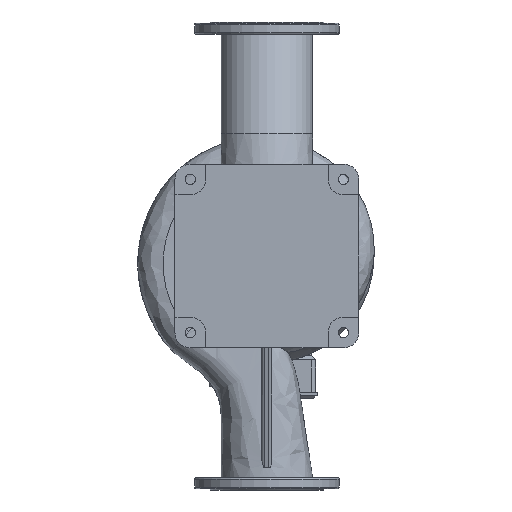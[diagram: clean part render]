
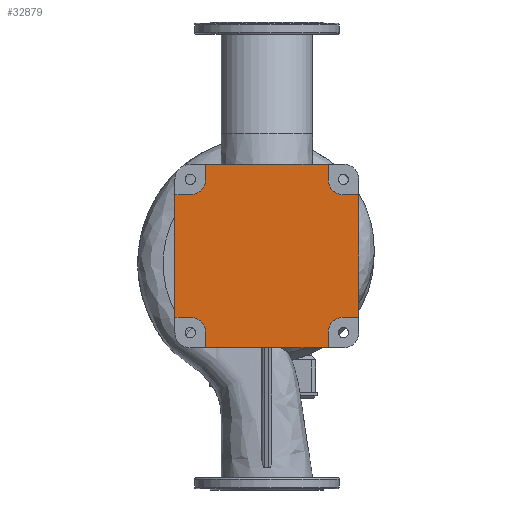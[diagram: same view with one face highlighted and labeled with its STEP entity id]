
A CAD part, front view. The second image highlights one B-rep face of the part: STEP entity #32879.
In plain terms, the highlighted planar face has unit normal (0, -1, 0).
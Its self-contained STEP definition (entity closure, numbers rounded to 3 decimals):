
#667 = ORIENTED_EDGE ( 'NONE', *, *, #24002, .T. ) ;
#1253 = PLANE ( 'NONE',  #15808 ) ;
#1757 = CARTESIAN_POINT ( 'NONE',  ( -216., -265., -144. ) ) ;
#2073 = EDGE_CURVE ( 'NONE', #21084, #23588, #5390, .T. ) ;
#2431 = AXIS2_PLACEMENT_3D ( 'NONE', #4075, #28111, #9421 ) ;
#2439 = EDGE_CURVE ( 'NONE', #23491, #11757, #12983, .T. ) ;
#3033 = AXIS2_PLACEMENT_3D ( 'NONE', #30472, #11250, #24785 ) ;
#3052 = ORIENTED_EDGE ( 'NONE', *, *, #30432, .T. ) ;
#3273 = VECTOR ( 'NONE', #24300, 1000. ) ;
#3354 = DIRECTION ( 'NONE',  ( 0., 0., 1. ) ) ;
#3415 = CARTESIAN_POINT ( 'NONE',  ( -144., -265., 180. ) ) ;
#3715 = ORIENTED_EDGE ( 'NONE', *, *, #17053, .T. ) ;
#4075 = CARTESIAN_POINT ( 'NONE',  ( 180., -265., 180. ) ) ;
#4239 = EDGE_CURVE ( 'NONE', #32823, #23638, #28445, .T. ) ;
#4413 = EDGE_CURVE ( 'NONE', #30263, #14908, #14287, .T. ) ;
#4471 = VECTOR ( 'NONE', #17040, 1000. ) ;
#4597 = CARTESIAN_POINT ( 'NONE',  ( -180., -265., -144. ) ) ;
#4748 = AXIS2_PLACEMENT_3D ( 'NONE', #11362, #30216, #3354 ) ;
#4814 = LINE ( 'NONE', #18327, #28095 ) ;
#5390 = LINE ( 'NONE', #22095, #16952 ) ;
#6461 = VECTOR ( 'NONE', #19549, 1000. ) ;
#6730 = EDGE_CURVE ( 'NONE', #23588, #23491, #20699, .T. ) ;
#6839 = CARTESIAN_POINT ( 'NONE',  ( 216., -265., 144. ) ) ;
#6894 = CARTESIAN_POINT ( 'NONE',  ( 144., -265., -216. ) ) ;
#7008 = DIRECTION ( 'NONE',  ( 0., 0., 1. ) ) ;
#8117 = VECTOR ( 'NONE', #19408, 1000. ) ;
#8146 = CIRCLE ( 'NONE', #4748, 36. ) ;
#8904 = CARTESIAN_POINT ( 'NONE',  ( -144., -265., -180. ) ) ;
#9421 = DIRECTION ( 'NONE',  ( 0., 0., 1. ) ) ;
#9700 = VERTEX_POINT ( 'NONE', #27347 ) ;
#10792 = DIRECTION ( 'NONE',  ( 0., 0., 1. ) ) ;
#10966 = VECTOR ( 'NONE', #7008, 1000. ) ;
#11080 = CARTESIAN_POINT ( 'NONE',  ( 144., -265., -180. ) ) ;
#11111 = CARTESIAN_POINT ( 'NONE',  ( -180., -265., 144. ) ) ;
#11250 = DIRECTION ( 'NONE',  ( 0., 1., 0. ) ) ;
#11362 = CARTESIAN_POINT ( 'NONE',  ( 180., -265., -180. ) ) ;
#11736 = CARTESIAN_POINT ( 'NONE',  ( 180., -265., 144. ) ) ;
#11757 = VERTEX_POINT ( 'NONE', #11736 ) ;
#11759 = EDGE_CURVE ( 'NONE', #11757, #32823, #24020, .T. ) ;
#12235 = LINE ( 'NONE', #6894, #22907 ) ;
#12339 = CARTESIAN_POINT ( 'NONE',  ( 216., -265., 144. ) ) ;
#12983 = LINE ( 'NONE', #33985, #27074 ) ;
#13824 = CIRCLE ( 'NONE', #3033, 36. ) ;
#13911 = LINE ( 'NONE', #14448, #8117 ) ;
#14100 = ORIENTED_EDGE ( 'NONE', *, *, #4239, .T. ) ;
#14268 = DIRECTION ( 'NONE',  ( 0., 0., -1. ) ) ;
#14287 = CIRCLE ( 'NONE', #20535, 36. ) ;
#14448 = CARTESIAN_POINT ( 'NONE',  ( -180., -265., -144. ) ) ;
#14458 = LINE ( 'NONE', #3415, #19215 ) ;
#14903 = VERTEX_POINT ( 'NONE', #19746 ) ;
#14908 = VERTEX_POINT ( 'NONE', #8904 ) ;
#15337 = VERTEX_POINT ( 'NONE', #19534 ) ;
#15808 = AXIS2_PLACEMENT_3D ( 'NONE', #17611, #28291, #28469 ) ;
#16455 = LINE ( 'NONE', #31798, #3273 ) ;
#16589 = CARTESIAN_POINT ( 'NONE',  ( 144., -265., -216. ) ) ;
#16730 = CARTESIAN_POINT ( 'NONE',  ( 144., -265., 180. ) ) ;
#16952 = VECTOR ( 'NONE', #24424, 1000. ) ;
#17019 = EDGE_CURVE ( 'NONE', #24896, #19715, #19365, .T. ) ;
#17040 = DIRECTION ( 'NONE',  ( 0., 0., -1. ) ) ;
#17053 = EDGE_CURVE ( 'NONE', #19715, #21084, #8146, .T. ) ;
#17188 = VECTOR ( 'NONE', #26801, 1000. ) ;
#17611 = CARTESIAN_POINT ( 'NONE',  ( -180., -265., -180. ) ) ;
#17991 = VERTEX_POINT ( 'NONE', #11111 ) ;
#18327 = CARTESIAN_POINT ( 'NONE',  ( -144., -265., -180. ) ) ;
#19215 = VECTOR ( 'NONE', #14268, 1000. ) ;
#19356 = VECTOR ( 'NONE', #28267, 1000. ) ;
#19365 = LINE ( 'NONE', #22213, #6461 ) ;
#19408 = DIRECTION ( 'NONE',  ( 1., 0., 0. ) ) ;
#19534 = CARTESIAN_POINT ( 'NONE',  ( -144., -265., 216. ) ) ;
#19549 = DIRECTION ( 'NONE',  ( 0., 0., 1. ) ) ;
#19703 = LINE ( 'NONE', #30929, #4471 ) ;
#19715 = VERTEX_POINT ( 'NONE', #11080 ) ;
#19746 = CARTESIAN_POINT ( 'NONE',  ( -144., -265., -216. ) ) ;
#20535 = AXIS2_PLACEMENT_3D ( 'NONE', #29994, #29461, #10792 ) ;
#20699 = LINE ( 'NONE', #12339, #10966 ) ;
#20934 = ORIENTED_EDGE ( 'NONE', *, *, #28710, .T. ) ;
#21084 = VERTEX_POINT ( 'NONE', #33114 ) ;
#21286 = LINE ( 'NONE', #32127, #17188 ) ;
#21498 = EDGE_LOOP ( 'NONE', ( #30025, #667, #29814, #31446, #3715, #30380, #30742, #34384, #23094, #14100, #20934, #26908, #27161, #3052, #23206, #26490 ) ) ;
#22095 = CARTESIAN_POINT ( 'NONE',  ( 180., -265., -144. ) ) ;
#22210 = CARTESIAN_POINT ( 'NONE',  ( 144., -265., 180. ) ) ;
#22213 = CARTESIAN_POINT ( 'NONE',  ( 144., -265., -180. ) ) ;
#22352 = EDGE_CURVE ( 'NONE', #30258, #30263, #13911, .T. ) ;
#22907 = VECTOR ( 'NONE', #29101, 1000. ) ;
#23094 = ORIENTED_EDGE ( 'NONE', *, *, #11759, .T. ) ;
#23206 = ORIENTED_EDGE ( 'NONE', *, *, #33380, .T. ) ;
#23491 = VERTEX_POINT ( 'NONE', #6839 ) ;
#23588 = VERTEX_POINT ( 'NONE', #35072 ) ;
#23638 = VERTEX_POINT ( 'NONE', #26930 ) ;
#24002 = EDGE_CURVE ( 'NONE', #14908, #14903, #4814, .T. ) ;
#24020 = CIRCLE ( 'NONE', #2431, 36. ) ;
#24300 = DIRECTION ( 'NONE',  ( -1., 0., 0. ) ) ;
#24424 = DIRECTION ( 'NONE',  ( 1., 0., 0. ) ) ;
#24785 = DIRECTION ( 'NONE',  ( 0., 0., 1. ) ) ;
#24896 = VERTEX_POINT ( 'NONE', #16589 ) ;
#25447 = FACE_OUTER_BOUND ( 'NONE', #21498, .T. ) ;
#26490 = ORIENTED_EDGE ( 'NONE', *, *, #22352, .T. ) ;
#26801 = DIRECTION ( 'NONE',  ( -1., 0., 0. ) ) ;
#26908 = ORIENTED_EDGE ( 'NONE', *, *, #31068, .T. ) ;
#26930 = CARTESIAN_POINT ( 'NONE',  ( 144., -265., 216. ) ) ;
#27074 = VECTOR ( 'NONE', #34338, 1000. ) ;
#27161 = ORIENTED_EDGE ( 'NONE', *, *, #28183, .T. ) ;
#27347 = CARTESIAN_POINT ( 'NONE',  ( -216., -265., 144. ) ) ;
#27425 = VERTEX_POINT ( 'NONE', #33758 ) ;
#27514 = EDGE_CURVE ( 'NONE', #14903, #24896, #12235, .T. ) ;
#28095 = VECTOR ( 'NONE', #29178, 1000. ) ;
#28111 = DIRECTION ( 'NONE',  ( 0., 1., 0. ) ) ;
#28183 = EDGE_CURVE ( 'NONE', #27425, #17991, #13824, .T. ) ;
#28267 = DIRECTION ( 'NONE',  ( 0., 0., 1. ) ) ;
#28291 = DIRECTION ( 'NONE',  ( 0., 1., 0. ) ) ;
#28445 = LINE ( 'NONE', #22210, #19356 ) ;
#28469 = DIRECTION ( 'NONE',  ( 0., 0., 1. ) ) ;
#28710 = EDGE_CURVE ( 'NONE', #23638, #15337, #21286, .T. ) ;
#29101 = DIRECTION ( 'NONE',  ( 1., 0., 0. ) ) ;
#29178 = DIRECTION ( 'NONE',  ( 0., 0., -1. ) ) ;
#29461 = DIRECTION ( 'NONE',  ( 0., 1., 0. ) ) ;
#29814 = ORIENTED_EDGE ( 'NONE', *, *, #27514, .T. ) ;
#29994 = CARTESIAN_POINT ( 'NONE',  ( -180., -265., -180. ) ) ;
#30025 = ORIENTED_EDGE ( 'NONE', *, *, #4413, .T. ) ;
#30216 = DIRECTION ( 'NONE',  ( 0., 1., 0. ) ) ;
#30258 = VERTEX_POINT ( 'NONE', #1757 ) ;
#30263 = VERTEX_POINT ( 'NONE', #4597 ) ;
#30380 = ORIENTED_EDGE ( 'NONE', *, *, #2073, .T. ) ;
#30432 = EDGE_CURVE ( 'NONE', #17991, #9700, #16455, .T. ) ;
#30472 = CARTESIAN_POINT ( 'NONE',  ( -180., -265., 180. ) ) ;
#30742 = ORIENTED_EDGE ( 'NONE', *, *, #6730, .T. ) ;
#30929 = CARTESIAN_POINT ( 'NONE',  ( -216., -265., -144. ) ) ;
#31068 = EDGE_CURVE ( 'NONE', #15337, #27425, #14458, .T. ) ;
#31446 = ORIENTED_EDGE ( 'NONE', *, *, #17019, .T. ) ;
#31798 = CARTESIAN_POINT ( 'NONE',  ( -180., -265., 144. ) ) ;
#32127 = CARTESIAN_POINT ( 'NONE',  ( -144., -265., 216. ) ) ;
#32823 = VERTEX_POINT ( 'NONE', #16730 ) ;
#32879 = ADVANCED_FACE ( 'NONE', ( #25447 ), #1253, .F. ) ;
#33114 = CARTESIAN_POINT ( 'NONE',  ( 180., -265., -144. ) ) ;
#33380 = EDGE_CURVE ( 'NONE', #9700, #30258, #19703, .T. ) ;
#33758 = CARTESIAN_POINT ( 'NONE',  ( -144., -265., 180. ) ) ;
#33985 = CARTESIAN_POINT ( 'NONE',  ( 180., -265., 144. ) ) ;
#34338 = DIRECTION ( 'NONE',  ( -1., 0., 0. ) ) ;
#34384 = ORIENTED_EDGE ( 'NONE', *, *, #2439, .T. ) ;
#35072 = CARTESIAN_POINT ( 'NONE',  ( 216., -265., -144. ) ) ;
